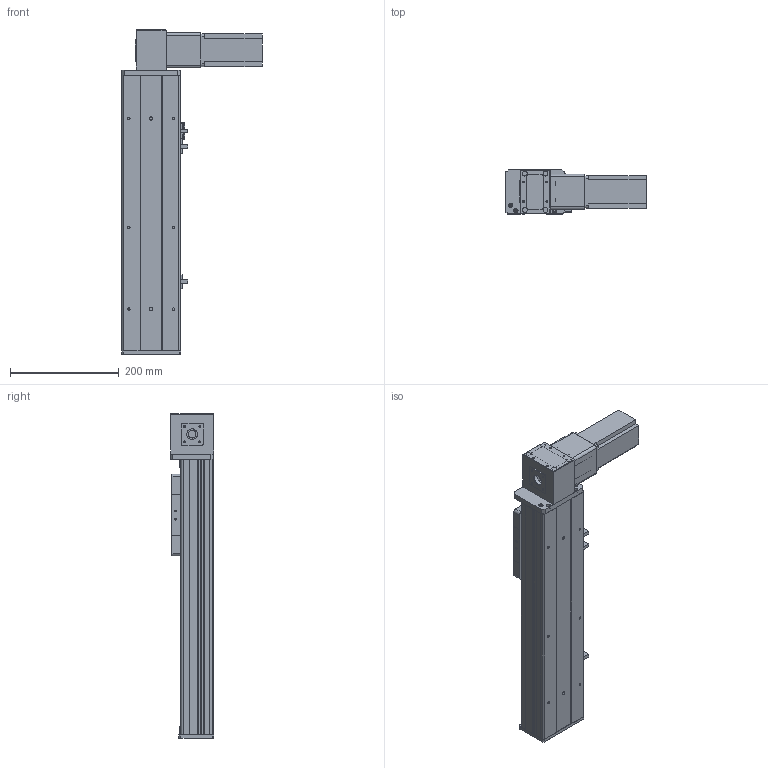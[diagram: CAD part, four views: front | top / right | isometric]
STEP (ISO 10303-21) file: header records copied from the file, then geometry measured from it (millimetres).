
FILE_DESCRIPTION (( 'STEP AP203' ), '1' );
FILE_NAME ('Y10CB-D90-S250-BD-P400W.STEP', '2020-02-17T02:19:09', ( '微软用户' ), ( '微软中国' ), 'SwSTEP 2.0', 'SolidWorks 2017', '' );
FILE_SCHEMA (( 'CONFIG_CONTROL_DESIGN' ));
Length unit declared in the file: millimetre
Products named in the file (16): san松下电机400不带刹车----; Y100-135俋离換覜ん--; 0B-源倛裔啣; Y10B--々湍喘謫眊--666; 0B-埴倛裔啣; 0B-薊粣ん眊; 10CB-詩湍-; Y10CB-D90-S250-BD-P400W; Y10CB- 掛极耜裔啣-毀---; Y10C---詩湍揤啣; 0CB-雄赽釱---; 10CB9-掛极; 0Cb-俋欶---; 10CB-耜裔; Y10B-々湍喘謫眊楊擘啣--; Y135C-陔俋离換覜結え-
Assembly tree (19 placements, depth 2):
  Y10CB-D90-S250-BD-P400W
    0CB-雄赽釱---
    0Cb-俋欶---
    Y10B-々湍喘謫眊楊擘啣--
    san松下电机400不带刹车----
    0B-源倛裔啣
    0B-埴倛裔啣
    10CB-詩湍-
    Y10CB- 掛极耜裔啣-毀---  x2
    Y10C---詩湍揤啣  x2
    10CB9-掛极
    10CB-耜裔
    Y135C-陔俋离換覜結え-
    Y100-135俋离換覜ん--  x3
    Y10B--々湍喘謫眊--666
    0B-薊粣ん眊
Bounding box: 258 x 80.5 x 596 mm (x, y, z)
Volume: 1827576.7 mm3; surface area: 707501.4 mm2
Topology: 19 solids, 19 shells, 852 faces, 2222 edges, 1460 vertices
Faces by surface type: plane 428, cylinder 400, cone 24
Entity records: 25569 total; most frequent: CARTESIAN_POINT 4312, DIRECTION 4185, ORIENTED_EDGE 3914, EDGE_CURVE 1957, AXIS2_PLACEMENT_3D 1503, VERTEX_POINT 1286, VECTOR 1179, LINE 1179
